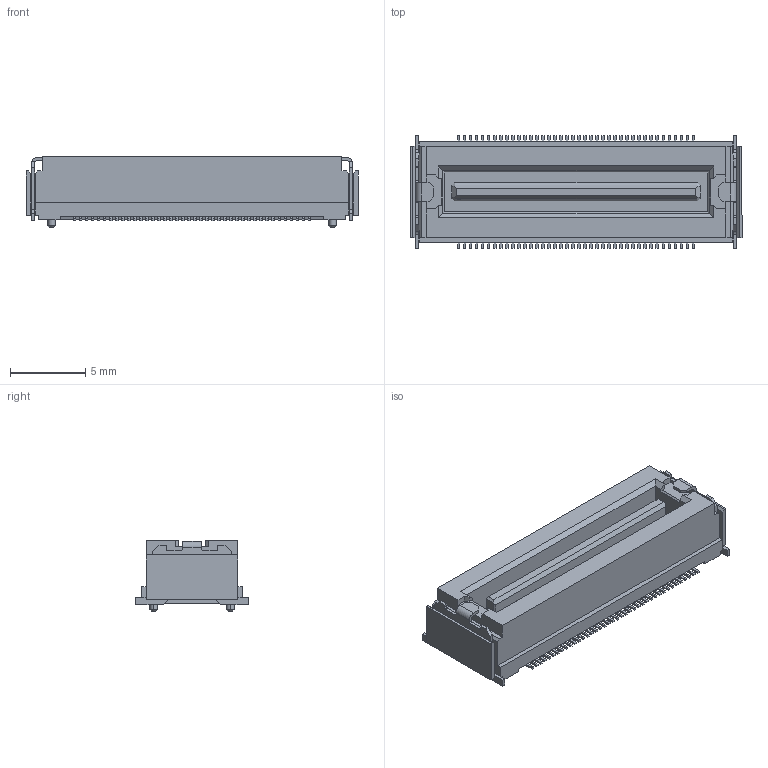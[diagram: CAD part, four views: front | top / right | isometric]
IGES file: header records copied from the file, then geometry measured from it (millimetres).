
Start section: Elysium IGES Interface
Global section: file name: C:\Users\1354\Desktop\P3D161_DU01-080SB\P3D161_DU01-080SB.igs; native system: Creo Elements/Direct Modeling 19.0F  14-Feb-2017; preprocessor: Creo Element/Direct IGES_3D V2.2; author: Unknown; organization: Unknown; date: 20171127.155143; units: millimetre
Bounding box: 22.1 x 7.5 x 4.7 mm (x, y, z)
Volume: 440.9 mm3; surface area: 799.6 mm2
Topology: 1 solids, 1 shells, 884 faces, 2493 edges, 1654 vertices
Faces by surface type: bspline 884
